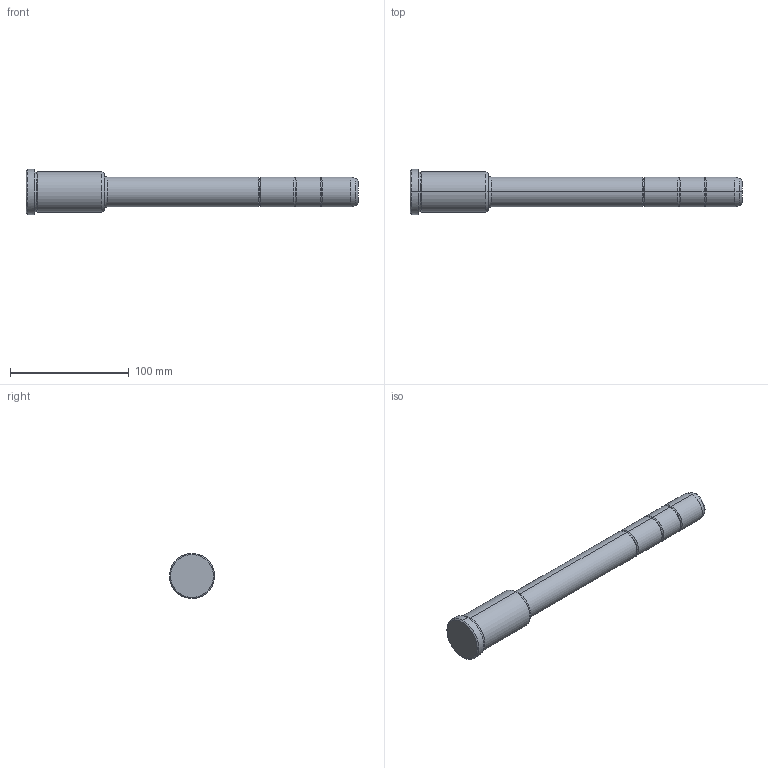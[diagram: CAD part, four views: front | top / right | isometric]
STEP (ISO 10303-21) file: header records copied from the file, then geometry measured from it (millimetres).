
FILE_DESCRIPTION(('CATIA V5 STEP Exchange'),'2;1');
FILE_NAME('C:\Users\Utente\Desktop\IO LAVORO\3D X SITO CF\X SITO\PLASTICA\351\351-25X66X280.stp','2021-09-07T10:22:28+00:00',('none'),('none'),'CATIA Version 5 Release 20 GA (IN-10)','CATIA V5 STEP AP203','none');
FILE_SCHEMA(('CONFIG_CONTROL_DESIGN'));
Length unit declared in the file: millimetre
Products named in the file (1): 351-25X66X280
Bounding box: 280 x 38 x 38 mm (x, y, z)
Volume: 165672.9 mm3; surface area: 25954.7 mm2
Topology: 1 solids, 1 shells, 42 faces, 118 edges, 80 vertices
Faces by surface type: torus 20, cylinder 12, cone 6, plane 4
Entity records: 1472 total; most frequent: CARTESIAN_POINT 353, ORIENTED_EDGE 236, DIRECTION 194, AXIS2_PLACEMENT_3D 135, EDGE_CURVE 118, CIRCLE 92, VERTEX_POINT 80, EDGE_LOOP 44
